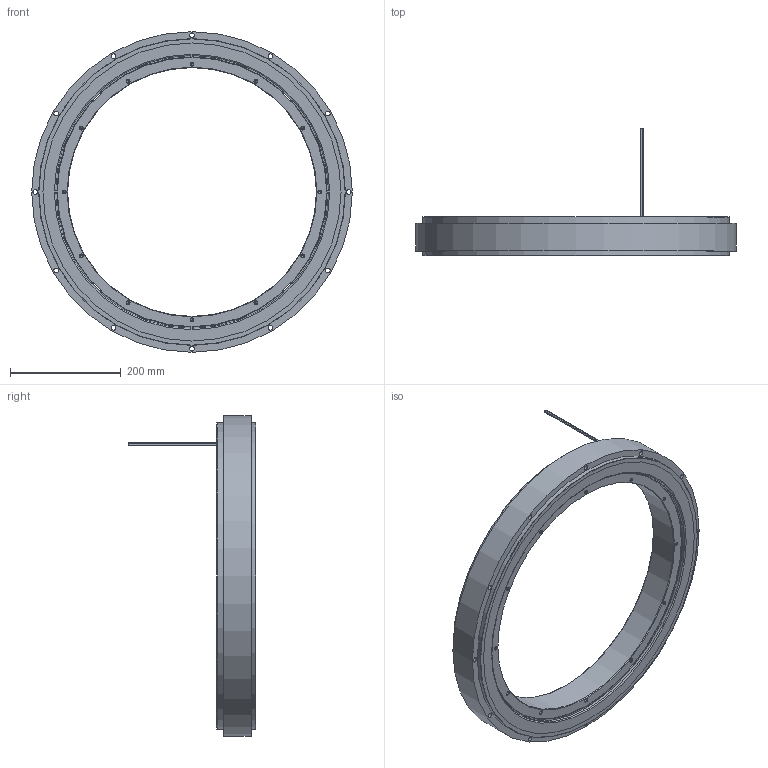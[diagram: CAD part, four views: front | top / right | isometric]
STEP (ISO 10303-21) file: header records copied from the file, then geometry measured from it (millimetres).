
FILE_DESCRIPTION(('STEP AP214'), '1');
FILE_NAME('楋樏襝鍱睯蜬蠈錪', '', ('UNSPECIFIED'), ('UNSPECIFIED'), 'C3D Converter', 'C3D Toolkit', '');
FILE_SCHEMA(('AUTOMOTIVE_DESIGN { 1 0 10303 214 3 1 1}'));
Length unit declared in the file: millimetre
Products named in the file (3): -01; МАНП.684252.020-01; МАНП.684222.023-01
Assembly tree (2 placements, depth 2):
  -01
    МАНП.684252.020-01
    МАНП.684222.023-01
Bounding box: 580 x 230 x 580 mm (x, y, z)
Volume: 6095511.4 mm3; surface area: 618871.4 mm2
Topology: 5 solids, 5 shells, 122 faces, 261 edges, 155 vertices
Faces by surface type: cone 50, cylinder 49, plane 16, torus 7
Full cylindrical faces by diameter (mm): 2.6 x3, 4.917 x24, 8.4 x12, 450 x1, 487.4 x1, 489 x1, 494 x2, 539 x2, 555 x2, 580 x1
Entity records: 3742 total; most frequent: DIRECTION 512, CARTESIAN_POINT 387, EDGE_LOOP 262, ORIENTED_EDGE 262, AXIS2_PLACEMENT_3D 256, FACE_OUTER_BOUND 188, EDGE_CURVE 131, VERTEX_POINT 131
